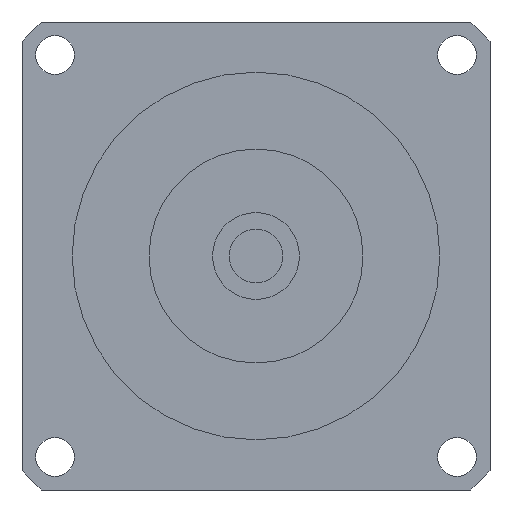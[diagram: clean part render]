
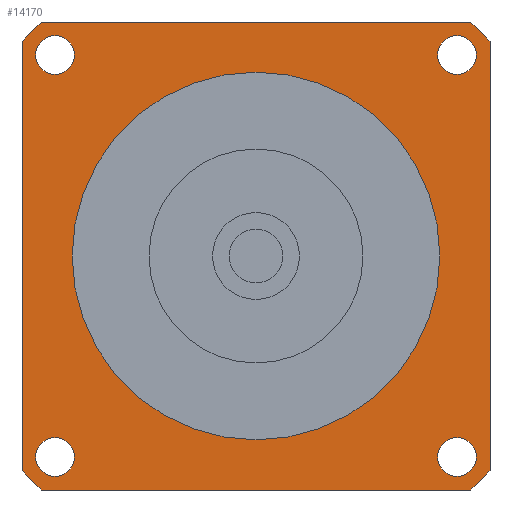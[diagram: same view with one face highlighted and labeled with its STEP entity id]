
A CAD part, left-side view. The second image highlights one B-rep face of the part: STEP entity #14170.
In plain terms, the highlighted planar face has unit normal (-1, 0, 0) as drawn and (0, 0, -1) by its records, which use the part's own axes.
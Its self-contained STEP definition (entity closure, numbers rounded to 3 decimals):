
#8830=CARTESIAN_POINT('',(-35.,-32.113,-37.1));
#8840=VERTEX_POINT('',#8830);
#8890=CARTESIAN_POINT('',(-35.,-35.,-37.1));
#8900=DIRECTION('',(0.,1.,0.));
#8910=VECTOR('',#8900,1000.);
#8920=LINE('',#8890,#8910);
#8930=CARTESIAN_POINT('',(-35.,32.113,-37.1));
#8940=VERTEX_POINT('',#8930);
#8950=EDGE_CURVE('',#8840,#8940,#8920,.T.);
#9340=CARTESIAN_POINT('',(27.152,-30.052,-37.1));
#9350=VERTEX_POINT('',#9340);
#9380=CARTESIAN_POINT('',(30.052,-30.052,-37.1));
#9390=DIRECTION('',(0.,0.,-1.));
#9400=DIRECTION('',(1.,0.,0.));
#9410=AXIS2_PLACEMENT_3D('',#9380,#9390,#9400);
#9420=CIRCLE('',#9410,2.9);
#9430=CARTESIAN_POINT('',(32.952,-30.052,-37.1));
#9440=VERTEX_POINT('',#9430);
#9450=EDGE_CURVE('',#9440,#9350,#9420,.T.);
#12690=CARTESIAN_POINT('',(-30.052,-27.152,-37.1));
#12700=VERTEX_POINT('',#12690);
#12730=CARTESIAN_POINT('',(-30.052,-30.052,-37.1));
#12740=DIRECTION('',(0.,0.,-1.));
#12750=DIRECTION('',(0.,-1.,0.));
#12760=AXIS2_PLACEMENT_3D('',#12730,#12740,#12750);
#12770=CIRCLE('',#12760,2.9);
#12780=CARTESIAN_POINT('',(-30.052,-32.952,-37.1));
#12790=VERTEX_POINT('',#12780);
#12800=EDGE_CURVE('',#12790,#12700,#12770,.T.);
#12920=CARTESIAN_POINT('',(35.,35.,-37.1));
#12930=DIRECTION('',(0.,0.,-1.));
#12940=DIRECTION('',(1.,0.,0.));
#12950=AXIS2_PLACEMENT_3D('',#12920,#12930,#12940);
#12960=PLANE('',#12950);
#12970=ORIENTED_EDGE('',*,*,#12800,.F.);
#12980=EDGE_CURVE('',#12700,#12790,#12770,.T.);
#12990=ORIENTED_EDGE('',*,*,#12980,.F.);
#13000=EDGE_LOOP('',(#12990,#12970));
#13010=FACE_BOUND('',#13000,.T.);
#13020=CARTESIAN_POINT('',(-30.052,30.052,-37.1));
#13030=DIRECTION('',(0.,0.,-1.));
#13040=DIRECTION('',(-1.,0.,0.));
#13050=AXIS2_PLACEMENT_3D('',#13020,#13030,#13040);
#13060=CIRCLE('',#13050,2.9);
#13070=CARTESIAN_POINT('',(-32.952,30.052,-37.1));
#13080=VERTEX_POINT('',#13070);
#13090=CARTESIAN_POINT('',(-27.152,30.052,-37.1));
#13100=VERTEX_POINT('',#13090);
#13110=EDGE_CURVE('',#13080,#13100,#13060,.T.);
#13120=ORIENTED_EDGE('',*,*,#13110,.F.);
#13130=EDGE_CURVE('',#13100,#13080,#13060,.T.);
#13140=ORIENTED_EDGE('',*,*,#13130,.F.);
#13150=EDGE_LOOP('',(#13140,#13120));
#13160=FACE_BOUND('',#13150,.T.);
#13170=CARTESIAN_POINT('',(30.052,30.052,-37.1));
#13180=DIRECTION('',(0.,0.,-1.));
#13190=DIRECTION('',(0.,1.,0.));
#13200=AXIS2_PLACEMENT_3D('',#13170,#13180,#13190);
#13210=CIRCLE('',#13200,2.9);
#13220=CARTESIAN_POINT('',(30.052,32.952,-37.1));
#13230=VERTEX_POINT('',#13220);
#13240=CARTESIAN_POINT('',(30.052,27.152,-37.1));
#13250=VERTEX_POINT('',#13240);
#13260=EDGE_CURVE('',#13230,#13250,#13210,.T.);
#13270=ORIENTED_EDGE('',*,*,#13260,.F.);
#13280=EDGE_CURVE('',#13250,#13230,#13210,.T.);
#13290=ORIENTED_EDGE('',*,*,#13280,.F.);
#13300=EDGE_LOOP('',(#13290,#13270));
#13310=FACE_BOUND('',#13300,.T.);
#13320=CARTESIAN_POINT('',(0.,0.,
-37.1));
#13330=DIRECTION('',(0.,0.,1.));
#13340=DIRECTION('',(0.,1.,0.));
#13350=AXIS2_PLACEMENT_3D('',#13320,#13330,#13340);
#13360=CIRCLE('',#13350,27.5);
#13370=CARTESIAN_POINT('',(-27.5,0.,-37.1));
#13380=VERTEX_POINT('',#13370);
#13390=CARTESIAN_POINT('',(27.5,0.,-37.1));
#13400=VERTEX_POINT('',#13390);
#13410=EDGE_CURVE('',#13380,#13400,#13360,.T.);
#13420=ORIENTED_EDGE('',*,*,#13410,.T.);
#13430=CARTESIAN_POINT('',(0.,27.5,-37.1));
#13440=VERTEX_POINT('',#13430);
#13450=EDGE_CURVE('',#13440,#13380,#13360,.T.);
#13460=ORIENTED_EDGE('',*,*,#13450,.T.);
#13470=EDGE_CURVE('',#13400,#13440,#13360,.T.);
#13480=ORIENTED_EDGE('',*,*,#13470,.T.);
#13490=EDGE_LOOP('',(#13480,#13460,#13420));
#13500=FACE_BOUND('',#13490,.T.);
#13510=CARTESIAN_POINT('',(-35.,35.,-37.1));
#13520=DIRECTION('',(1.,0.,0.));
#13530=VECTOR('',#13520,1000.);
#13540=LINE('',#13510,#13530);
#13550=CARTESIAN_POINT('',(-32.113,35.,-37.1));
#13560=VERTEX_POINT('',#13550);
#13570=CARTESIAN_POINT('',(32.113,35.,-37.1));
#13580=VERTEX_POINT('',#13570);
#13590=EDGE_CURVE('',#13560,#13580,#13540,.T.);
#13600=ORIENTED_EDGE('',*,*,#13590,.T.);
#13610=CARTESIAN_POINT('',(0.,0.,-37.1));
#13620=DIRECTION('',(0.,0.,-1.));
#13630=DIRECTION('',(1.,0.,0.));
#13640=AXIS2_PLACEMENT_3D('',#13610,#13620,#13630);
#13650=CIRCLE('',#13640,47.5);
#13660=EDGE_CURVE('',#8940,#13560,#13650,.T.);
#13670=ORIENTED_EDGE('',*,*,#13660,.T.);
#13680=ORIENTED_EDGE('',*,*,#8950,.T.);
#13690=CARTESIAN_POINT('',(0.,0.,-37.1));
#13700=DIRECTION('',(0.,0.,-1.));
#13710=DIRECTION('',(1.,0.,0.));
#13720=AXIS2_PLACEMENT_3D('',#13690,#13700,#13710);
#13730=CIRCLE('',#13720,47.5);
#13740=CARTESIAN_POINT('',(-32.113,-35.,-37.1));
#13750=VERTEX_POINT('',#13740);
#13760=EDGE_CURVE('',#13750,#8840,#13730,.T.);
#13770=ORIENTED_EDGE('',*,*,#13760,.T.);
#13780=CARTESIAN_POINT('',(35.,-35.,-37.1));
#13790=DIRECTION('',(-1.,0.,0.));
#13800=VECTOR('',#13790,1000.);
#13810=LINE('',#13780,#13800);
#13820=CARTESIAN_POINT('',(32.113,-35.,-37.1));
#13830=VERTEX_POINT('',#13820);
#13840=EDGE_CURVE('',#13830,#13750,#13810,.T.);
#13850=ORIENTED_EDGE('',*,*,#13840,.T.);
#13860=CARTESIAN_POINT('',(0.,0.,-37.1));
#13870=DIRECTION('',(0.,0.,-1.));
#13880=DIRECTION('',(1.,0.,0.));
#13890=AXIS2_PLACEMENT_3D('',#13860,#13870,#13880);
#13900=CIRCLE('',#13890,47.5);
#13910=CARTESIAN_POINT('',(35.,-32.113,-37.1));
#13920=VERTEX_POINT('',#13910);
#13930=EDGE_CURVE('',#13920,#13830,#13900,.T.);
#13940=ORIENTED_EDGE('',*,*,#13930,.T.);
#13950=CARTESIAN_POINT('',(35.,35.,-37.1));
#13960=DIRECTION('',(0.,-1.,0.));
#13970=VECTOR('',#13960,1000.);
#13980=LINE('',#13950,#13970);
#13990=CARTESIAN_POINT('',(35.,32.113,-37.1));
#14000=VERTEX_POINT('',#13990);
#14010=EDGE_CURVE('',#14000,#13920,#13980,.T.);
#14020=ORIENTED_EDGE('',*,*,#14010,.T.);
#14030=CARTESIAN_POINT('',(0.,0.,-37.1));
#14040=DIRECTION('',(0.,0.,-1.));
#14050=DIRECTION('',(1.,0.,0.));
#14060=AXIS2_PLACEMENT_3D('',#14030,#14040,#14050);
#14070=CIRCLE('',#14060,47.5);
#14080=EDGE_CURVE('',#13580,#14000,#14070,.T.);
#14090=ORIENTED_EDGE('',*,*,#14080,.T.);
#14100=EDGE_LOOP('',(#14090,#14020,#13940,#13850,#13770,#13680,#13670,
#13600));
#14110=FACE_OUTER_BOUND('',#14100,.T.);
#14120=ORIENTED_EDGE('',*,*,#9450,.F.);
#14130=EDGE_CURVE('',#9350,#9440,#9420,.T.);
#14140=ORIENTED_EDGE('',*,*,#14130,.F.);
#14150=EDGE_LOOP('',(#14140,#14120));
#14160=FACE_BOUND('',#14150,.T.);
#14170=ADVANCED_FACE('',(#13010,#13160,#13310,#13500,#14110,#14160),
#12960,.T.);
